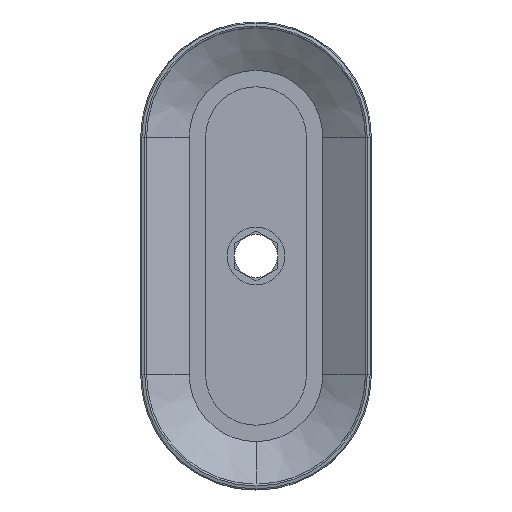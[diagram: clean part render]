
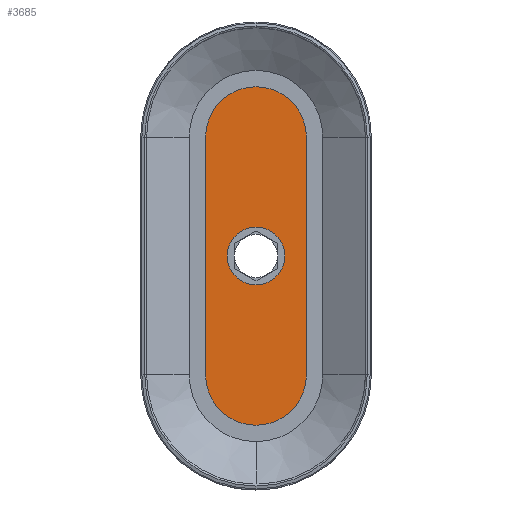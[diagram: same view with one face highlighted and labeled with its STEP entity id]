
A CAD part, front view. The second image highlights one B-rep face of the part: STEP entity #3685.
In plain terms, the highlighted planar face has unit normal (0, -1, 0).
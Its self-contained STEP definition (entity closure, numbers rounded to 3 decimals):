
#334 = CARTESIAN_POINT ( 'NONE',  ( 7., 7., 16.5 ) ) ;
#461 = AXIS2_PLACEMENT_3D ( 'NONE', #8903, #11014, #7888 ) ;
#514 = FACE_BOUND ( 'NONE', #1526, .T. ) ;
#604 = CARTESIAN_POINT ( 'NONE',  ( 7., 7., -16.5 ) ) ;
#605 = AXIS2_PLACEMENT_3D ( 'NONE', #7639, #12639, #4621 ) ;
#771 = VERTEX_POINT ( 'NONE', #1273 ) ;
#1004 = CARTESIAN_POINT ( 'NONE',  ( 7., 7., 16.5 ) ) ;
#1089 = VERTEX_POINT ( 'NONE', #11387 ) ;
#1273 = CARTESIAN_POINT ( 'NONE',  ( 0., 7., -4. ) ) ;
#1526 = EDGE_LOOP ( 'NONE', ( #5766, #3724 ) ) ;
#1539 = EDGE_CURVE ( 'NONE', #4955, #1089, #9249, .T. ) ;
#2231 = CIRCLE ( 'NONE', #2428, 7. ) ;
#2428 = AXIS2_PLACEMENT_3D ( 'NONE', #4014, #3757, #6963 ) ;
#2459 = EDGE_CURVE ( 'NONE', #1089, #7184, #2231, .T. ) ;
#2827 = CIRCLE ( 'NONE', #461, 4. ) ;
#3242 = DIRECTION ( 'NONE',  ( 0., 0., 1. ) ) ;
#3271 = VECTOR ( 'NONE', #11094, 1000. ) ;
#3284 = AXIS2_PLACEMENT_3D ( 'NONE', #4043, #6042, #3242 ) ;
#3402 = CARTESIAN_POINT ( 'NONE',  ( 0., 7., 0. ) ) ;
#3670 = CARTESIAN_POINT ( 'NONE',  ( 0., 7., 23.5 ) ) ;
#3685 = ADVANCED_FACE ( 'NONE', ( #9759, #514 ), #4551, .F. ) ;
#3724 = ORIENTED_EDGE ( 'NONE', *, *, #6384, .T. ) ;
#3757 = DIRECTION ( 'NONE',  ( 0., 1., 0. ) ) ;
#4014 = CARTESIAN_POINT ( 'NONE',  ( 0., 7., 16.5 ) ) ;
#4043 = CARTESIAN_POINT ( 'NONE',  ( 0., 7., -16.5 ) ) ;
#4467 = DIRECTION ( 'NONE',  ( 0., 0., 1. ) ) ;
#4551 = PLANE ( 'NONE',  #605 ) ;
#4621 = DIRECTION ( 'NONE',  ( 0., 0., 1. ) ) ;
#4876 = ORIENTED_EDGE ( 'NONE', *, *, #6929, .F. ) ;
#4894 = CARTESIAN_POINT ( 'NONE',  ( -7., 7., 16.5 ) ) ;
#4955 = VERTEX_POINT ( 'NONE', #7722 ) ;
#4981 = VECTOR ( 'NONE', #8578, 1000. ) ;
#5766 = ORIENTED_EDGE ( 'NONE', *, *, #8648, .T. ) ;
#5920 = VERTEX_POINT ( 'NONE', #1004 ) ;
#5947 = CIRCLE ( 'NONE', #6162, 7. ) ;
#6042 = DIRECTION ( 'NONE',  ( 0., 1., 0. ) ) ;
#6162 = AXIS2_PLACEMENT_3D ( 'NONE', #9318, #9113, #10165 ) ;
#6384 = EDGE_CURVE ( 'NONE', #771, #11105, #2827, .T. ) ;
#6470 = ORIENTED_EDGE ( 'NONE', *, *, #10084, .F. ) ;
#6929 = EDGE_CURVE ( 'NONE', #11543, #4955, #11364, .T. ) ;
#6963 = DIRECTION ( 'NONE',  ( 0., 0., 1. ) ) ;
#7184 = VERTEX_POINT ( 'NONE', #3670 ) ;
#7559 = CARTESIAN_POINT ( 'NONE',  ( 0., 7., 4. ) ) ;
#7639 = CARTESIAN_POINT ( 'NONE',  ( -0.1, 7., 16.5 ) ) ;
#7661 = ORIENTED_EDGE ( 'NONE', *, *, #11765, .F. ) ;
#7722 = CARTESIAN_POINT ( 'NONE',  ( -7., 7., -16.5 ) ) ;
#7888 = DIRECTION ( 'NONE',  ( 0., 0., 1. ) ) ;
#8578 = DIRECTION ( 'NONE',  ( 0., 0., -1. ) ) ;
#8648 = EDGE_CURVE ( 'NONE', #11105, #771, #9961, .T. ) ;
#8903 = CARTESIAN_POINT ( 'NONE',  ( 0., 7., 0. ) ) ;
#9113 = DIRECTION ( 'NONE',  ( 0., 1., 0. ) ) ;
#9249 = LINE ( 'NONE', #4894, #3271 ) ;
#9318 = CARTESIAN_POINT ( 'NONE',  ( 0., 7., 16.5 ) ) ;
#9669 = DIRECTION ( 'NONE',  ( 0., 1., 0. ) ) ;
#9759 = FACE_OUTER_BOUND ( 'NONE', #11193, .T. ) ;
#9961 = CIRCLE ( 'NONE', #12956, 4. ) ;
#10084 = EDGE_CURVE ( 'NONE', #7184, #5920, #5947, .T. ) ;
#10165 = DIRECTION ( 'NONE',  ( 0., 0., 1. ) ) ;
#10374 = ORIENTED_EDGE ( 'NONE', *, *, #2459, .F. ) ;
#10805 = ORIENTED_EDGE ( 'NONE', *, *, #1539, .F. ) ;
#11014 = DIRECTION ( 'NONE',  ( 0., 1., 0. ) ) ;
#11094 = DIRECTION ( 'NONE',  ( 0., 0., 1. ) ) ;
#11105 = VERTEX_POINT ( 'NONE', #7559 ) ;
#11193 = EDGE_LOOP ( 'NONE', ( #4876, #7661, #6470, #10374, #10805 ) ) ;
#11364 = CIRCLE ( 'NONE', #3284, 7. ) ;
#11387 = CARTESIAN_POINT ( 'NONE',  ( -7., 7., 16.5 ) ) ;
#11498 = LINE ( 'NONE', #334, #4981 ) ;
#11543 = VERTEX_POINT ( 'NONE', #604 ) ;
#11765 = EDGE_CURVE ( 'NONE', #5920, #11543, #11498, .T. ) ;
#12639 = DIRECTION ( 'NONE',  ( 0., 1., 0. ) ) ;
#12956 = AXIS2_PLACEMENT_3D ( 'NONE', #3402, #9669, #4467 ) ;
